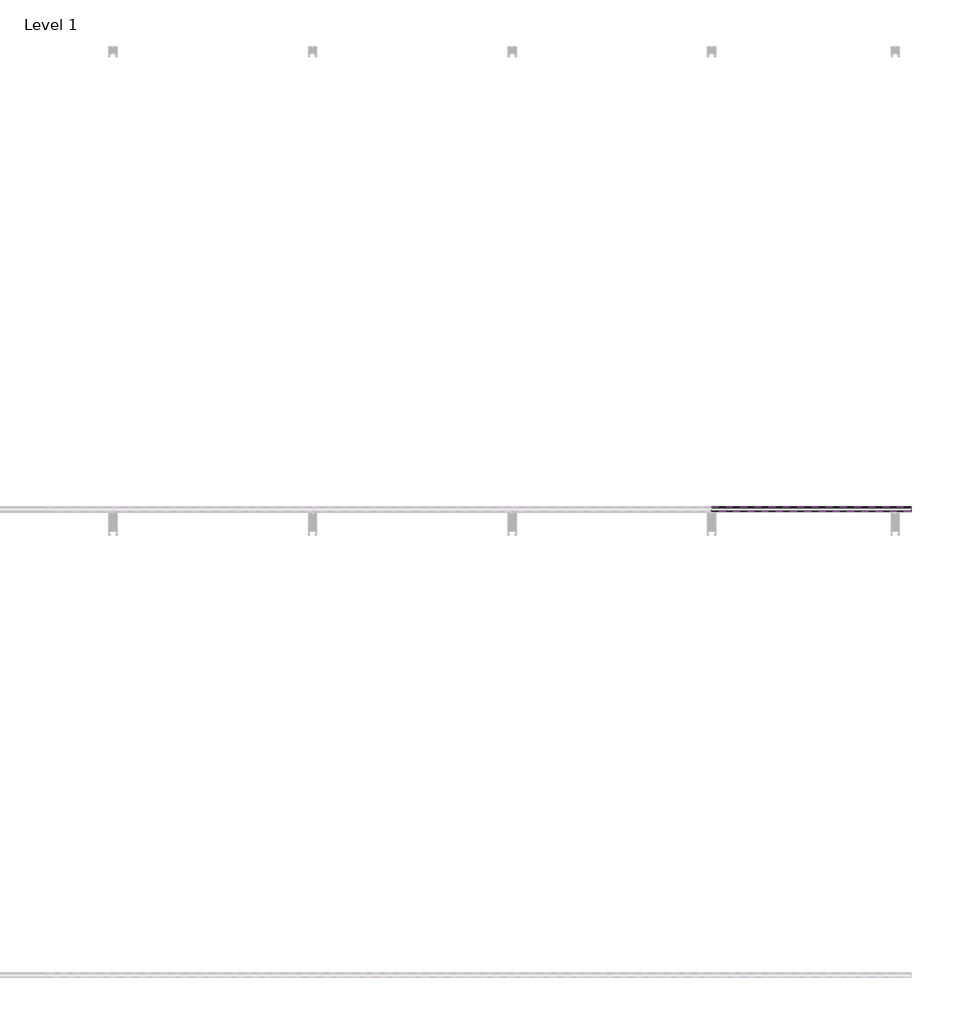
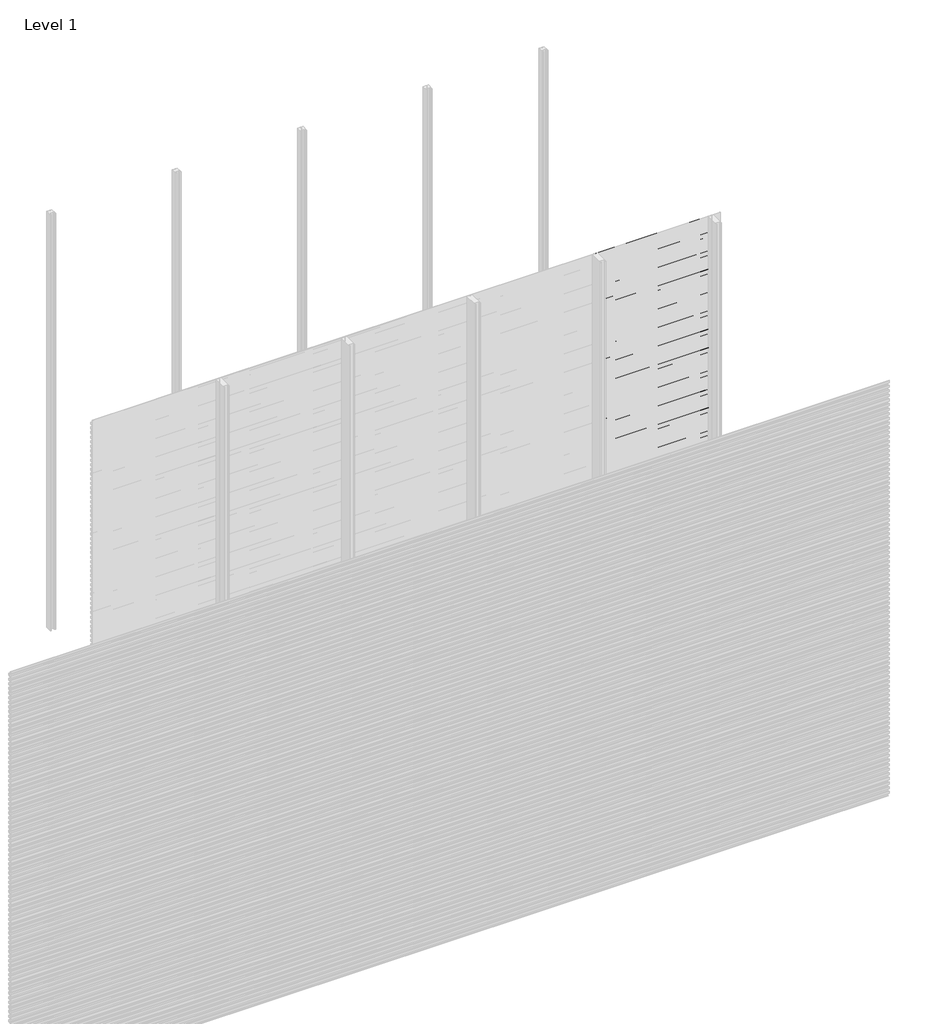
# One storey, part 68 of 96: 76 proxies.
"""IFC4 building model written with IfcOpenShell, lengths in millimetres."""

from ifc_helpers import new_model, si_unit, frame, origin, place, context, project, spatial, polyline, outline, extrude, element, save

model = new_model("IFC4")

# Units and contexts
model_context = context("Model", 3, world=origin())
ifc_project = project(units=[si_unit("LENGTHUNIT", "METRE", prefix="MILLI")], contexts=[model_context])

# Site, building, storey
site = spatial("IfcSite", under=ifc_project)
building = spatial("IfcBuilding", under=site)
storey = spatial("IfcBuildingStorey", under=building, Name="Level 1", Elevation=0.0)

# Proxies
placement = place(None, origin())
element("IfcBuildingElementProxy", 1, Name="Wall Sweeps", at=placement, inside=storey, context=model_context, shape_type="SweptSolid", body=[
    extrude(outline(polyline([(-17977.6, 574.1655033), (-17977.6, 559.8779188), (-17982.4114965, 557.1), (-17982.4114965, 558.3701706), (-17978.85, 560.4264016), (-17978.85, 573.4437382), (-17998.0, 584.5000799), (-17998.0, 599.4), (-17996.75, 599.4), (-17996.75, 585.2217609), (-17977.6, 574.1655033)])), frame((4285.7142857, 0.0, 0.0), z_axis=(1.0, 0.0, 0.0), x_axis=(0.0, 1.0, 0.0)), (0.0, 0.0, 1.0), 857.1428571),
])
element("IfcBuildingElementProxy", 2, Name="Wall Sweeps", at=placement, inside=storey, context=model_context, shape_type="SweptSolid", body=[
    extrude(outline(polyline([(-17977.6, 540.8655033), (-17977.6, 526.5779188), (-17982.4114965, 523.8), (-17982.4114965, 525.0701706), (-17978.85, 527.1264016), (-17978.85, 540.1437382), (-17998.0, 551.2000799), (-17998.0, 566.1), (-17996.75, 566.1), (-17996.75, 551.9217609), (-17977.6, 540.8655033)])), frame((4285.7142857, 0.0, 0.0), z_axis=(1.0, 0.0, 0.0), x_axis=(0.0, 1.0, 0.0)), (0.0, 0.0, 1.0), 857.1428571),
])
element("IfcBuildingElementProxy", 3, Name="Wall Sweeps", at=placement, inside=storey, context=model_context, shape_type="SweptSolid", body=[
    extrude(outline(polyline([(-17977.6, 507.5655033), (-17977.6, 493.2779188), (-17982.4114965, 490.5), (-17982.4114965, 491.7701706), (-17978.85, 493.8264016), (-17978.85, 506.8437382), (-17998.0, 517.9000799), (-17998.0, 532.8), (-17996.75, 532.8), (-17996.75, 518.6217609), (-17977.6, 507.5655033)])), frame((4285.7142857, 0.0, 0.0), z_axis=(1.0, 0.0, 0.0), x_axis=(0.0, 1.0, 0.0)), (0.0, 0.0, 1.0), 857.1428571),
])
element("IfcBuildingElementProxy", 4, Name="Wall Sweeps", at=placement, inside=storey, context=model_context, shape_type="SweptSolid", body=[
    extrude(outline(polyline([(-17977.6, 474.2655033), (-17977.6, 459.9779188), (-17982.4114965, 457.2), (-17982.4114965, 458.4701706), (-17978.85, 460.5264016), (-17978.85, 473.5437382), (-17998.0, 484.6000799), (-17998.0, 499.5), (-17996.75, 499.5), (-17996.75, 485.3217609), (-17977.6, 474.2655033)])), frame((4285.7142857, 0.0, 0.0), z_axis=(1.0, 0.0, 0.0), x_axis=(0.0, 1.0, 0.0)), (0.0, 0.0, 1.0), 857.1428571),
])
element("IfcBuildingElementProxy", 5, Name="Wall Sweeps", at=placement, inside=storey, context=model_context, shape_type="SweptSolid", body=[
    extrude(outline(polyline([(-17977.6, 440.9655033), (-17977.6, 426.6779188), (-17982.4114965, 423.9), (-17982.4114965, 425.1701706), (-17978.85, 427.2264016), (-17978.85, 440.2437382), (-17998.0, 451.3000799), (-17998.0, 466.2), (-17996.75, 466.2), (-17996.75, 452.0217609), (-17977.6, 440.9655033)])), frame((4285.7142857, 0.0, 0.0), z_axis=(1.0, 0.0, 0.0), x_axis=(0.0, 1.0, 0.0)), (0.0, 0.0, 1.0), 857.1428571),
])
element("IfcBuildingElementProxy", 6, Name="Wall Sweeps", at=placement, inside=storey, context=model_context, shape_type="SweptSolid", body=[
    extrude(outline(polyline([(-17977.6, 407.6655033), (-17977.6, 393.3779188), (-17982.4114965, 390.6), (-17982.4114965, 391.8701706), (-17978.85, 393.9264016), (-17978.85, 406.9437382), (-17998.0, 418.0000799), (-17998.0, 432.9), (-17996.75, 432.9), (-17996.75, 418.7217609), (-17977.6, 407.6655033)])), frame((4285.7142857, 0.0, 0.0), z_axis=(1.0, 0.0, 0.0), x_axis=(0.0, 1.0, 0.0)), (0.0, 0.0, 1.0), 857.1428571),
])
element("IfcBuildingElementProxy", 7, Name="Wall Sweeps", at=placement, inside=storey, context=model_context, shape_type="SweptSolid", body=[
    extrude(outline(polyline([(-17977.6, 374.3655033), (-17977.6, 360.0779188), (-17982.4114965, 357.3), (-17982.4114965, 358.5701706), (-17978.85, 360.6264016), (-17978.85, 373.6437382), (-17998.0, 384.7000799), (-17998.0, 399.6), (-17996.75, 399.6), (-17996.75, 385.4217609), (-17977.6, 374.3655033)])), frame((4285.7142857, 0.0, 0.0), z_axis=(1.0, 0.0, 0.0), x_axis=(0.0, 1.0, 0.0)), (0.0, 0.0, 1.0), 857.1428571),
])
element("IfcBuildingElementProxy", 8, Name="Wall Sweeps", at=placement, inside=storey, context=model_context, shape_type="SweptSolid", body=[
    extrude(outline(polyline([(-17977.6, 341.0655033), (-17977.6, 326.7779188), (-17982.4114965, 324.0), (-17982.4114965, 325.2701706), (-17978.85, 327.3264016), (-17978.85, 340.3437382), (-17998.0, 351.4000799), (-17998.0, 366.3), (-17996.75, 366.3), (-17996.75, 352.1217609), (-17977.6, 341.0655033)])), frame((4285.7142857, 0.0, 0.0), z_axis=(1.0, 0.0, 0.0), x_axis=(0.0, 1.0, 0.0)), (0.0, 0.0, 1.0), 857.1428571),
])
element("IfcBuildingElementProxy", 9, Name="Wall Sweeps", at=placement, inside=storey, context=model_context, shape_type="SweptSolid", body=[
    extrude(outline(polyline([(-17977.6, 307.7655033), (-17977.6, 293.4779188), (-17982.4114965, 290.7), (-17982.4114965, 291.9701706), (-17978.85, 294.0264016), (-17978.85, 307.0437382), (-17998.0, 318.1000799), (-17998.0, 333.0), (-17996.75, 333.0), (-17996.75, 318.8217609), (-17977.6, 307.7655033)])), frame((4285.7142857, 0.0, 0.0), z_axis=(1.0, 0.0, 0.0), x_axis=(0.0, 1.0, 0.0)), (0.0, 0.0, 1.0), 857.1428571),
])
element("IfcBuildingElementProxy", 10, Name="Wall Sweeps", at=placement, inside=storey, context=model_context, shape_type="SweptSolid", body=[
    extrude(outline(polyline([(-17977.6, 274.4655033), (-17977.6, 260.1779188), (-17982.4114965, 257.4), (-17982.4114965, 258.6701706), (-17978.85, 260.7264016), (-17978.85, 273.7437382), (-17998.0, 284.8000799), (-17998.0, 299.7), (-17996.75, 299.7), (-17996.75, 285.5217609), (-17977.6, 274.4655033)])), frame((4285.7142857, 0.0, 0.0), z_axis=(1.0, 0.0, 0.0), x_axis=(0.0, 1.0, 0.0)), (0.0, 0.0, 1.0), 857.1428571),
])
element("IfcBuildingElementProxy", 11, Name="Wall Sweeps", at=placement, inside=storey, context=model_context, shape_type="SweptSolid", body=[
    extrude(outline(polyline([(-17977.6, 241.1655033), (-17977.6, 226.8779188), (-17982.4114965, 224.1), (-17982.4114965, 225.3701706), (-17978.85, 227.4264016), (-17978.85, 240.4437382), (-17998.0, 251.5000799), (-17998.0, 266.4), (-17996.75, 266.4), (-17996.75, 252.2217609), (-17977.6, 241.1655033)])), frame((4285.7142857, 0.0, 0.0), z_axis=(1.0, 0.0, 0.0), x_axis=(0.0, 1.0, 0.0)), (0.0, 0.0, 1.0), 857.1428571),
])
element("IfcBuildingElementProxy", 12, Name="Wall Sweeps", at=placement, inside=storey, context=model_context, shape_type="SweptSolid", body=[
    extrude(outline(polyline([(-17977.6, 207.8655033), (-17977.6, 193.5779188), (-17982.4114965, 190.8), (-17982.4114965, 192.0701706), (-17978.85, 194.1264016), (-17978.85, 207.1437382), (-17998.0, 218.2000799), (-17998.0, 233.1), (-17996.75, 233.1), (-17996.75, 218.9217609), (-17977.6, 207.8655033)])), frame((4285.7142857, 0.0, 0.0), z_axis=(1.0, 0.0, 0.0), x_axis=(0.0, 1.0, 0.0)), (0.0, 0.0, 1.0), 857.1428571),
])
element("IfcBuildingElementProxy", 13, Name="Wall Sweeps", at=placement, inside=storey, context=model_context, shape_type="SweptSolid", body=[
    extrude(outline(polyline([(-17977.6, 174.5655033), (-17977.6, 160.2779188), (-17982.4114965, 157.5), (-17982.4114965, 158.7701706), (-17978.85, 160.8264016), (-17978.85, 173.8437382), (-17998.0, 184.9000799), (-17998.0, 199.8), (-17996.75, 199.8), (-17996.75, 185.6217609), (-17977.6, 174.5655033)])), frame((4285.7142857, 0.0, 0.0), z_axis=(1.0, 0.0, 0.0), x_axis=(0.0, 1.0, 0.0)), (0.0, 0.0, 1.0), 857.1428571),
])
element("IfcBuildingElementProxy", 14, Name="Wall Sweeps", at=placement, inside=storey, context=model_context, shape_type="SweptSolid", body=[
    extrude(outline(polyline([(-17977.6, 141.2655033), (-17977.6, 126.9779188), (-17982.4114965, 124.2), (-17982.4114965, 125.4701706), (-17978.85, 127.5264016), (-17978.85, 140.5437382), (-17998.0, 151.6000799), (-17998.0, 166.5), (-17996.75, 166.5), (-17996.75, 152.3217609), (-17977.6, 141.2655033)])), frame((4285.7142857, 0.0, 0.0), z_axis=(1.0, 0.0, 0.0), x_axis=(0.0, 1.0, 0.0)), (0.0, 0.0, 1.0), 857.1428571),
])
element("IfcBuildingElementProxy", 15, Name="Wall Sweeps", at=placement, inside=storey, context=model_context, shape_type="SweptSolid", body=[
    extrude(outline(polyline([(-17977.6, 107.9655033), (-17977.6, 93.6779188), (-17982.4114965, 90.9), (-17982.4114965, 92.1701706), (-17978.85, 94.2264016), (-17978.85, 107.2437382), (-17998.0, 118.3000799), (-17998.0, 133.2), (-17996.75, 133.2), (-17996.75, 119.0217609), (-17977.6, 107.9655033)])), frame((4285.7142857, 0.0, 0.0), z_axis=(1.0, 0.0, 0.0), x_axis=(0.0, 1.0, 0.0)), (0.0, 0.0, 1.0), 857.1428571),
])
element("IfcBuildingElementProxy", 16, Name="Wall Sweeps", at=placement, inside=storey, context=model_context, shape_type="SweptSolid", body=[
    extrude(outline(polyline([(-17977.6, 74.6655033), (-17977.6, 60.3779188), (-17982.4114965, 57.6), (-17982.4114965, 58.8701706), (-17978.85, 60.9264016), (-17978.85, 73.9437382), (-17998.0, 85.0000799), (-17998.0, 99.9), (-17996.75, 99.9), (-17996.75, 85.7217609), (-17977.6, 74.6655033)])), frame((4285.7142857, 0.0, 0.0), z_axis=(1.0, 0.0, 0.0), x_axis=(0.0, 1.0, 0.0)), (0.0, 0.0, 1.0), 857.1428571),
])
element("IfcBuildingElementProxy", 17, Name="Wall Sweeps", at=placement, inside=storey, context=model_context, shape_type="SweptSolid", body=[
    extrude(outline(polyline([(-17977.6, 41.3655033), (-17977.6, 27.0779188), (-17982.4114965, 24.3), (-17982.4114965, 25.5701706), (-17978.85, 27.6264016), (-17978.85, 40.6437382), (-17998.0, 51.7000799), (-17998.0, 66.6), (-17996.75, 66.6), (-17996.75, 52.4217609), (-17977.6, 41.3655033)])), frame((4285.7142857, 0.0, 0.0), z_axis=(1.0, 0.0, 0.0), x_axis=(0.0, 1.0, 0.0)), (0.0, 0.0, 1.0), 857.1428571),
])
element("IfcBuildingElementProxy", 18, Name="Wall Sweeps", at=placement, inside=storey, context=model_context, shape_type="SweptSolid", body=[
    extrude(outline(polyline([(-17977.6, 8.0655033), (-17977.6, -6.2220812), (-17982.4114965, -9.0), (-17982.4114965, -7.7298294), (-17978.85, -5.6735984), (-17978.85, 7.3437382), (-17998.0, 18.4000799), (-17998.0, 33.3), (-17996.75, 33.3), (-17996.75, 19.1217609), (-17977.6, 8.0655033)])), frame((4285.7142857, 0.0, 0.0), z_axis=(1.0, 0.0, 0.0), x_axis=(0.0, 1.0, 0.0)), (0.0, 0.0, 1.0), 857.1428571),
])
element("IfcBuildingElementProxy", 19, Name="Wall Sweeps", at=placement, inside=storey, context=model_context, shape_type="SweptSolid", body=[
    extrude(outline(polyline([(-17977.6, 2971.7655033), (-17977.6, 2957.4779188), (-17982.4114965, 2954.7), (-17982.4114965, 2955.9701706), (-17978.85, 2958.0264016), (-17978.85, 2971.0437382), (-17998.0, 2982.1000799), (-17998.0, 2997.0), (-17996.75, 2997.0), (-17996.75, 2982.8217609), (-17977.6, 2971.7655033)])), frame((5142.8571429, 0.0, 0.0), z_axis=(1.0, 0.0, 0.0), x_axis=(0.0, 1.0, 0.0)), (0.0, 0.0, 1.0), 857.1428571),
])
element("IfcBuildingElementProxy", 20, Name="Wall Sweeps", at=placement, inside=storey, context=model_context, shape_type="SweptSolid", body=[
    extrude(outline(polyline([(-17977.6, 2938.4655033), (-17977.6, 2924.1779188), (-17982.4114965, 2921.4), (-17982.4114965, 2922.6701706), (-17978.85, 2924.7264016), (-17978.85, 2937.7437382), (-17998.0, 2948.8000799), (-17998.0, 2963.7), (-17996.75, 2963.7), (-17996.75, 2949.5217609), (-17977.6, 2938.4655033)])), frame((5142.8571429, 0.0, 0.0), z_axis=(1.0, 0.0, 0.0), x_axis=(0.0, 1.0, 0.0)), (0.0, 0.0, 1.0), 857.1428571),
])
element("IfcBuildingElementProxy", 21, Name="Wall Sweeps", at=placement, inside=storey, context=model_context, shape_type="SweptSolid", body=[
    extrude(outline(polyline([(-17977.6, 2905.1655033), (-17977.6, 2890.8779188), (-17982.4114965, 2888.1), (-17982.4114965, 2889.3701706), (-17978.85, 2891.4264016), (-17978.85, 2904.4437382), (-17998.0, 2915.5000799), (-17998.0, 2930.4), (-17996.75, 2930.4), (-17996.75, 2916.2217609), (-17977.6, 2905.1655033)])), frame((5142.8571429, 0.0, 0.0), z_axis=(1.0, 0.0, 0.0), x_axis=(0.0, 1.0, 0.0)), (0.0, 0.0, 1.0), 857.1428571),
])
element("IfcBuildingElementProxy", 22, Name="Wall Sweeps", at=placement, inside=storey, context=model_context, shape_type="SweptSolid", body=[
    extrude(outline(polyline([(-17977.6, 2871.8655033), (-17977.6, 2857.5779188), (-17982.4114965, 2854.8), (-17982.4114965, 2856.0701706), (-17978.85, 2858.1264016), (-17978.85, 2871.1437382), (-17998.0, 2882.2000799), (-17998.0, 2897.1), (-17996.75, 2897.1), (-17996.75, 2882.9217609), (-17977.6, 2871.8655033)])), frame((5142.8571429, 0.0, 0.0), z_axis=(1.0, 0.0, 0.0), x_axis=(0.0, 1.0, 0.0)), (0.0, 0.0, 1.0), 857.1428571),
])
element("IfcBuildingElementProxy", 23, Name="Wall Sweeps", at=placement, inside=storey, context=model_context, shape_type="SweptSolid", body=[
    extrude(outline(polyline([(-17977.6, 2838.5655033), (-17977.6, 2824.2779188), (-17982.4114965, 2821.5), (-17982.4114965, 2822.7701706), (-17978.85, 2824.8264016), (-17978.85, 2837.8437382), (-17998.0, 2848.9000799), (-17998.0, 2863.8), (-17996.75, 2863.8), (-17996.75, 2849.6217609), (-17977.6, 2838.5655033)])), frame((5142.8571429, 0.0, 0.0), z_axis=(1.0, 0.0, 0.0), x_axis=(0.0, 1.0, 0.0)), (0.0, 0.0, 1.0), 857.1428571),
])
element("IfcBuildingElementProxy", 24, Name="Wall Sweeps", at=placement, inside=storey, context=model_context, shape_type="SweptSolid", body=[
    extrude(outline(polyline([(-17977.6, 2805.2655033), (-17977.6, 2790.9779188), (-17982.4114965, 2788.2), (-17982.4114965, 2789.4701706), (-17978.85, 2791.5264016), (-17978.85, 2804.5437382), (-17998.0, 2815.6000799), (-17998.0, 2830.5), (-17996.75, 2830.5), (-17996.75, 2816.3217609), (-17977.6, 2805.2655033)])), frame((5142.8571429, 0.0, 0.0), z_axis=(1.0, 0.0, 0.0), x_axis=(0.0, 1.0, 0.0)), (0.0, 0.0, 1.0), 857.1428571),
])
element("IfcBuildingElementProxy", 25, Name="Wall Sweeps", at=placement, inside=storey, context=model_context, shape_type="SweptSolid", body=[
    extrude(outline(polyline([(-17977.6, 2771.9655033), (-17977.6, 2757.6779188), (-17982.4114965, 2754.9), (-17982.4114965, 2756.1701706), (-17978.85, 2758.2264016), (-17978.85, 2771.2437382), (-17998.0, 2782.3000799), (-17998.0, 2797.2), (-17996.75, 2797.2), (-17996.75, 2783.0217609), (-17977.6, 2771.9655033)])), frame((5142.8571429, 0.0, 0.0), z_axis=(1.0, 0.0, 0.0), x_axis=(0.0, 1.0, 0.0)), (0.0, 0.0, 1.0), 857.1428571),
])
element("IfcBuildingElementProxy", 26, Name="Wall Sweeps", at=placement, inside=storey, context=model_context, shape_type="SweptSolid", body=[
    extrude(outline(polyline([(-17977.6, 2738.6655033), (-17977.6, 2724.3779188), (-17982.4114965, 2721.6), (-17982.4114965, 2722.8701706), (-17978.85, 2724.9264016), (-17978.85, 2737.9437382), (-17998.0, 2749.0000799), (-17998.0, 2763.9), (-17996.75, 2763.9), (-17996.75, 2749.7217609), (-17977.6, 2738.6655033)])), frame((5142.8571429, 0.0, 0.0), z_axis=(1.0, 0.0, 0.0), x_axis=(0.0, 1.0, 0.0)), (0.0, 0.0, 1.0), 857.1428571),
])
element("IfcBuildingElementProxy", 27, Name="Wall Sweeps", at=placement, inside=storey, context=model_context, shape_type="SweptSolid", body=[
    extrude(outline(polyline([(-17977.6, 2705.3655033), (-17977.6, 2691.0779188), (-17982.4114965, 2688.3), (-17982.4114965, 2689.5701706), (-17978.85, 2691.6264016), (-17978.85, 2704.6437382), (-17998.0, 2715.7000799), (-17998.0, 2730.6), (-17996.75, 2730.6), (-17996.75, 2716.4217609), (-17977.6, 2705.3655033)])), frame((5142.8571429, 0.0, 0.0), z_axis=(1.0, 0.0, 0.0), x_axis=(0.0, 1.0, 0.0)), (0.0, 0.0, 1.0), 857.1428571),
])
element("IfcBuildingElementProxy", 28, Name="Wall Sweeps", at=placement, inside=storey, context=model_context, shape_type="SweptSolid", body=[
    extrude(outline(polyline([(-17977.6, 2672.0655033), (-17977.6, 2657.7779188), (-17982.4114965, 2655.0), (-17982.4114965, 2656.2701706), (-17978.85, 2658.3264016), (-17978.85, 2671.3437382), (-17998.0, 2682.4000799), (-17998.0, 2697.3), (-17996.75, 2697.3), (-17996.75, 2683.1217609), (-17977.6, 2672.0655033)])), frame((5142.8571429, 0.0, 0.0), z_axis=(1.0, 0.0, 0.0), x_axis=(0.0, 1.0, 0.0)), (0.0, 0.0, 1.0), 857.1428571),
])
element("IfcBuildingElementProxy", 29, Name="Wall Sweeps", at=placement, inside=storey, context=model_context, shape_type="SweptSolid", body=[
    extrude(outline(polyline([(-17977.6, 2638.7655033), (-17977.6, 2624.4779188), (-17982.4114965, 2621.7), (-17982.4114965, 2622.9701706), (-17978.85, 2625.0264016), (-17978.85, 2638.0437382), (-17998.0, 2649.1000799), (-17998.0, 2664.0), (-17996.75, 2664.0), (-17996.75, 2649.8217609), (-17977.6, 2638.7655033)])), frame((5142.8571429, 0.0, 0.0), z_axis=(1.0, 0.0, 0.0), x_axis=(0.0, 1.0, 0.0)), (0.0, 0.0, 1.0), 857.1428571),
])
element("IfcBuildingElementProxy", 30, Name="Wall Sweeps", at=placement, inside=storey, context=model_context, shape_type="SweptSolid", body=[
    extrude(outline(polyline([(-17977.6, 2605.4655033), (-17977.6, 2591.1779188), (-17982.4114965, 2588.4), (-17982.4114965, 2589.6701706), (-17978.85, 2591.7264016), (-17978.85, 2604.7437382), (-17998.0, 2615.8000799), (-17998.0, 2630.7), (-17996.75, 2630.7), (-17996.75, 2616.5217609), (-17977.6, 2605.4655033)])), frame((5142.8571429, 0.0, 0.0), z_axis=(1.0, 0.0, 0.0), x_axis=(0.0, 1.0, 0.0)), (0.0, 0.0, 1.0), 857.1428571),
])
element("IfcBuildingElementProxy", 31, Name="Wall Sweeps", at=placement, inside=storey, context=model_context, shape_type="SweptSolid", body=[
    extrude(outline(polyline([(-17977.6, 2572.1655033), (-17977.6, 2557.8779188), (-17982.4114965, 2555.1), (-17982.4114965, 2556.3701706), (-17978.85, 2558.4264016), (-17978.85, 2571.4437382), (-17998.0, 2582.5000799), (-17998.0, 2597.4), (-17996.75, 2597.4), (-17996.75, 2583.2217609), (-17977.6, 2572.1655033)])), frame((5142.8571429, 0.0, 0.0), z_axis=(1.0, 0.0, 0.0), x_axis=(0.0, 1.0, 0.0)), (0.0, 0.0, 1.0), 857.1428571),
])
element("IfcBuildingElementProxy", 32, Name="Wall Sweeps", at=placement, inside=storey, context=model_context, shape_type="SweptSolid", body=[
    extrude(outline(polyline([(-17977.6, 2538.8655033), (-17977.6, 2524.5779188), (-17982.4114965, 2521.8), (-17982.4114965, 2523.0701706), (-17978.85, 2525.1264016), (-17978.85, 2538.1437382), (-17998.0, 2549.2000799), (-17998.0, 2564.1), (-17996.75, 2564.1), (-17996.75, 2549.9217609), (-17977.6, 2538.8655033)])), frame((5142.8571429, 0.0, 0.0), z_axis=(1.0, 0.0, 0.0), x_axis=(0.0, 1.0, 0.0)), (0.0, 0.0, 1.0), 857.1428571),
])
element("IfcBuildingElementProxy", 33, Name="Wall Sweeps", at=placement, inside=storey, context=model_context, shape_type="SweptSolid", body=[
    extrude(outline(polyline([(-17977.6, 2505.5655033), (-17977.6, 2491.2779188), (-17982.4114965, 2488.5), (-17982.4114965, 2489.7701706), (-17978.85, 2491.8264016), (-17978.85, 2504.8437382), (-17998.0, 2515.9000799), (-17998.0, 2530.8), (-17996.75, 2530.8), (-17996.75, 2516.6217609), (-17977.6, 2505.5655033)])), frame((5142.8571429, 0.0, 0.0), z_axis=(1.0, 0.0, 0.0), x_axis=(0.0, 1.0, 0.0)), (0.0, 0.0, 1.0), 857.1428571),
])
element("IfcBuildingElementProxy", 34, Name="Wall Sweeps", at=placement, inside=storey, context=model_context, shape_type="SweptSolid", body=[
    extrude(outline(polyline([(-17977.6, 2472.2655033), (-17977.6, 2457.9779188), (-17982.4114965, 2455.2), (-17982.4114965, 2456.4701706), (-17978.85, 2458.5264016), (-17978.85, 2471.5437382), (-17998.0, 2482.6000799), (-17998.0, 2497.5), (-17996.75, 2497.5), (-17996.75, 2483.3217609), (-17977.6, 2472.2655033)])), frame((5142.8571429, 0.0, 0.0), z_axis=(1.0, 0.0, 0.0), x_axis=(0.0, 1.0, 0.0)), (0.0, 0.0, 1.0), 857.1428571),
])
element("IfcBuildingElementProxy", 35, Name="Wall Sweeps", at=placement, inside=storey, context=model_context, shape_type="SweptSolid", body=[
    extrude(outline(polyline([(-17977.6, 2438.9655033), (-17977.6, 2424.6779188), (-17982.4114965, 2421.9), (-17982.4114965, 2423.1701706), (-17978.85, 2425.2264016), (-17978.85, 2438.2437382), (-17998.0, 2449.3000799), (-17998.0, 2464.2), (-17996.75, 2464.2), (-17996.75, 2450.0217609), (-17977.6, 2438.9655033)])), frame((5142.8571429, 0.0, 0.0), z_axis=(1.0, 0.0, 0.0), x_axis=(0.0, 1.0, 0.0)), (0.0, 0.0, 1.0), 857.1428571),
])
element("IfcBuildingElementProxy", 36, Name="Wall Sweeps", at=placement, inside=storey, context=model_context, shape_type="SweptSolid", body=[
    extrude(outline(polyline([(-17977.6, 2405.6655033), (-17977.6, 2391.3779188), (-17982.4114965, 2388.6), (-17982.4114965, 2389.8701706), (-17978.85, 2391.9264016), (-17978.85, 2404.9437382), (-17998.0, 2416.0000799), (-17998.0, 2430.9), (-17996.75, 2430.9), (-17996.75, 2416.7217609), (-17977.6, 2405.6655033)])), frame((5142.8571429, 0.0, 0.0), z_axis=(1.0, 0.0, 0.0), x_axis=(0.0, 1.0, 0.0)), (0.0, 0.0, 1.0), 857.1428571),
])
element("IfcBuildingElementProxy", 37, Name="Wall Sweeps", at=placement, inside=storey, context=model_context, shape_type="SweptSolid", body=[
    extrude(outline(polyline([(-17977.6, 2372.3655033), (-17977.6, 2358.0779188), (-17982.4114965, 2355.3), (-17982.4114965, 2356.5701706), (-17978.85, 2358.6264016), (-17978.85, 2371.6437382), (-17998.0, 2382.7000799), (-17998.0, 2397.6), (-17996.75, 2397.6), (-17996.75, 2383.4217609), (-17977.6, 2372.3655033)])), frame((5142.8571429, 0.0, 0.0), z_axis=(1.0, 0.0, 0.0), x_axis=(0.0, 1.0, 0.0)), (0.0, 0.0, 1.0), 857.1428571),
])
element("IfcBuildingElementProxy", 38, Name="Wall Sweeps", at=placement, inside=storey, context=model_context, shape_type="SweptSolid", body=[
    extrude(outline(polyline([(-17977.6, 2339.0655033), (-17977.6, 2324.7779188), (-17982.4114965, 2322.0), (-17982.4114965, 2323.2701706), (-17978.85, 2325.3264016), (-17978.85, 2338.3437382), (-17998.0, 2349.4000799), (-17998.0, 2364.3), (-17996.75, 2364.3), (-17996.75, 2350.1217609), (-17977.6, 2339.0655033)])), frame((5142.8571429, 0.0, 0.0), z_axis=(1.0, 0.0, 0.0), x_axis=(0.0, 1.0, 0.0)), (0.0, 0.0, 1.0), 857.1428571),
])
element("IfcBuildingElementProxy", 39, Name="Wall Sweeps", at=placement, inside=storey, context=model_context, shape_type="SweptSolid", body=[
    extrude(outline(polyline([(-17977.6, 2305.7655033), (-17977.6, 2291.4779188), (-17982.4114965, 2288.7), (-17982.4114965, 2289.9701706), (-17978.85, 2292.0264016), (-17978.85, 2305.0437382), (-17998.0, 2316.1000799), (-17998.0, 2331.0), (-17996.75, 2331.0), (-17996.75, 2316.8217609), (-17977.6, 2305.7655033)])), frame((5142.8571429, 0.0, 0.0), z_axis=(1.0, 0.0, 0.0), x_axis=(0.0, 1.0, 0.0)), (0.0, 0.0, 1.0), 857.1428571),
])
element("IfcBuildingElementProxy", 40, Name="Wall Sweeps", at=placement, inside=storey, context=model_context, shape_type="SweptSolid", body=[
    extrude(outline(polyline([(-17977.6, 2272.4655033), (-17977.6, 2258.1779188), (-17982.4114965, 2255.4), (-17982.4114965, 2256.6701706), (-17978.85, 2258.7264016), (-17978.85, 2271.7437382), (-17998.0, 2282.8000799), (-17998.0, 2297.7), (-17996.75, 2297.7), (-17996.75, 2283.5217609), (-17977.6, 2272.4655033)])), frame((5142.8571429, 0.0, 0.0), z_axis=(1.0, 0.0, 0.0), x_axis=(0.0, 1.0, 0.0)), (0.0, 0.0, 1.0), 857.1428571),
])
element("IfcBuildingElementProxy", 41, Name="Wall Sweeps", at=placement, inside=storey, context=model_context, shape_type="SweptSolid", body=[
    extrude(outline(polyline([(-17977.6, 2239.1655033), (-17977.6, 2224.8779188), (-17982.4114965, 2222.1), (-17982.4114965, 2223.3701706), (-17978.85, 2225.4264016), (-17978.85, 2238.4437382), (-17998.0, 2249.5000799), (-17998.0, 2264.4), (-17996.75, 2264.4), (-17996.75, 2250.2217609), (-17977.6, 2239.1655033)])), frame((5142.8571429, 0.0, 0.0), z_axis=(1.0, 0.0, 0.0), x_axis=(0.0, 1.0, 0.0)), (0.0, 0.0, 1.0), 857.1428571),
])
element("IfcBuildingElementProxy", 42, Name="Wall Sweeps", at=placement, inside=storey, context=model_context, shape_type="SweptSolid", body=[
    extrude(outline(polyline([(-17977.6, 2205.8655033), (-17977.6, 2191.5779188), (-17982.4114965, 2188.8), (-17982.4114965, 2190.0701706), (-17978.85, 2192.1264016), (-17978.85, 2205.1437382), (-17998.0, 2216.2000799), (-17998.0, 2231.1), (-17996.75, 2231.1), (-17996.75, 2216.9217609), (-17977.6, 2205.8655033)])), frame((5142.8571429, 0.0, 0.0), z_axis=(1.0, 0.0, 0.0), x_axis=(0.0, 1.0, 0.0)), (0.0, 0.0, 1.0), 857.1428571),
])
element("IfcBuildingElementProxy", 43, Name="Wall Sweeps", at=placement, inside=storey, context=model_context, shape_type="SweptSolid", body=[
    extrude(outline(polyline([(-17977.6, 2172.5655033), (-17977.6, 2158.2779188), (-17982.4114965, 2155.5), (-17982.4114965, 2156.7701706), (-17978.85, 2158.8264016), (-17978.85, 2171.8437382), (-17998.0, 2182.9000799), (-17998.0, 2197.8), (-17996.75, 2197.8), (-17996.75, 2183.6217609), (-17977.6, 2172.5655033)])), frame((5142.8571429, 0.0, 0.0), z_axis=(1.0, 0.0, 0.0), x_axis=(0.0, 1.0, 0.0)), (0.0, 0.0, 1.0), 857.1428571),
])
element("IfcBuildingElementProxy", 44, Name="Wall Sweeps", at=placement, inside=storey, context=model_context, shape_type="SweptSolid", body=[
    extrude(outline(polyline([(-17977.6, 2139.2655033), (-17977.6, 2124.9779188), (-17982.4114965, 2122.2), (-17982.4114965, 2123.4701706), (-17978.85, 2125.5264016), (-17978.85, 2138.5437382), (-17998.0, 2149.6000799), (-17998.0, 2164.5), (-17996.75, 2164.5), (-17996.75, 2150.3217609), (-17977.6, 2139.2655033)])), frame((5142.8571429, 0.0, 0.0), z_axis=(1.0, 0.0, 0.0), x_axis=(0.0, 1.0, 0.0)), (0.0, 0.0, 1.0), 857.1428571),
])
element("IfcBuildingElementProxy", 45, Name="Wall Sweeps", at=placement, inside=storey, context=model_context, shape_type="SweptSolid", body=[
    extrude(outline(polyline([(-17977.6, 2105.9655033), (-17977.6, 2091.6779188), (-17982.4114965, 2088.9), (-17982.4114965, 2090.1701706), (-17978.85, 2092.2264016), (-17978.85, 2105.2437382), (-17998.0, 2116.3000799), (-17998.0, 2131.2), (-17996.75, 2131.2), (-17996.75, 2117.0217609), (-17977.6, 2105.9655033)])), frame((5142.8571429, 0.0, 0.0), z_axis=(1.0, 0.0, 0.0), x_axis=(0.0, 1.0, 0.0)), (0.0, 0.0, 1.0), 857.1428571),
])
element("IfcBuildingElementProxy", 46, Name="Wall Sweeps", at=placement, inside=storey, context=model_context, shape_type="SweptSolid", body=[
    extrude(outline(polyline([(-17977.6, 2072.6655033), (-17977.6, 2058.3779188), (-17982.4114965, 2055.6), (-17982.4114965, 2056.8701706), (-17978.85, 2058.9264016), (-17978.85, 2071.9437382), (-17998.0, 2083.0000799), (-17998.0, 2097.9), (-17996.75, 2097.9), (-17996.75, 2083.7217609), (-17977.6, 2072.6655033)])), frame((5142.8571429, 0.0, 0.0), z_axis=(1.0, 0.0, 0.0), x_axis=(0.0, 1.0, 0.0)), (0.0, 0.0, 1.0), 857.1428571),
])
element("IfcBuildingElementProxy", 47, Name="Wall Sweeps", at=placement, inside=storey, context=model_context, shape_type="SweptSolid", body=[
    extrude(outline(polyline([(-17977.6, 2039.3655033), (-17977.6, 2025.0779188), (-17982.4114965, 2022.3), (-17982.4114965, 2023.5701706), (-17978.85, 2025.6264016), (-17978.85, 2038.6437382), (-17998.0, 2049.7000799), (-17998.0, 2064.6), (-17996.75, 2064.6), (-17996.75, 2050.4217609), (-17977.6, 2039.3655033)])), frame((5142.8571429, 0.0, 0.0), z_axis=(1.0, 0.0, 0.0), x_axis=(0.0, 1.0, 0.0)), (0.0, 0.0, 1.0), 857.1428571),
])
element("IfcBuildingElementProxy", 48, Name="Wall Sweeps", at=placement, inside=storey, context=model_context, shape_type="SweptSolid", body=[
    extrude(outline(polyline([(-17977.6, 2006.0655033), (-17977.6, 1991.7779188), (-17982.4114965, 1989.0), (-17982.4114965, 1990.2701706), (-17978.85, 1992.3264016), (-17978.85, 2005.3437382), (-17998.0, 2016.4000799), (-17998.0, 2031.3), (-17996.75, 2031.3), (-17996.75, 2017.1217609), (-17977.6, 2006.0655033)])), frame((5142.8571429, 0.0, 0.0), z_axis=(1.0, 0.0, 0.0), x_axis=(0.0, 1.0, 0.0)), (0.0, 0.0, 1.0), 857.1428571),
])
element("IfcBuildingElementProxy", 49, Name="Wall Sweeps", at=placement, inside=storey, context=model_context, shape_type="SweptSolid", body=[
    extrude(outline(polyline([(-17977.6, 1972.7655033), (-17977.6, 1958.4779188), (-17982.4114965, 1955.7), (-17982.4114965, 1956.9701706), (-17978.85, 1959.0264016), (-17978.85, 1972.0437382), (-17998.0, 1983.1000799), (-17998.0, 1998.0), (-17996.75, 1998.0), (-17996.75, 1983.8217609), (-17977.6, 1972.7655033)])), frame((5142.8571429, 0.0, 0.0), z_axis=(1.0, 0.0, 0.0), x_axis=(0.0, 1.0, 0.0)), (0.0, 0.0, 1.0), 857.1428571),
])
element("IfcBuildingElementProxy", 50, Name="Wall Sweeps", at=placement, inside=storey, context=model_context, shape_type="SweptSolid", body=[
    extrude(outline(polyline([(-17977.6, 1939.4655033), (-17977.6, 1925.1779188), (-17982.4114965, 1922.4), (-17982.4114965, 1923.6701706), (-17978.85, 1925.7264016), (-17978.85, 1938.7437382), (-17998.0, 1949.8000799), (-17998.0, 1964.7), (-17996.75, 1964.7), (-17996.75, 1950.5217609), (-17977.6, 1939.4655033)])), frame((5142.8571429, 0.0, 0.0), z_axis=(1.0, 0.0, 0.0), x_axis=(0.0, 1.0, 0.0)), (0.0, 0.0, 1.0), 857.1428571),
])
element("IfcBuildingElementProxy", 51, Name="Wall Sweeps", at=placement, inside=storey, context=model_context, shape_type="SweptSolid", body=[
    extrude(outline(polyline([(-17977.6, 1906.1655033), (-17977.6, 1891.8779188), (-17982.4114965, 1889.1), (-17982.4114965, 1890.3701706), (-17978.85, 1892.4264016), (-17978.85, 1905.4437382), (-17998.0, 1916.5000799), (-17998.0, 1931.4), (-17996.75, 1931.4), (-17996.75, 1917.2217609), (-17977.6, 1906.1655033)])), frame((5142.8571429, 0.0, 0.0), z_axis=(1.0, 0.0, 0.0), x_axis=(0.0, 1.0, 0.0)), (0.0, 0.0, 1.0), 857.1428571),
])
element("IfcBuildingElementProxy", 52, Name="Wall Sweeps", at=placement, inside=storey, context=model_context, shape_type="SweptSolid", body=[
    extrude(outline(polyline([(-17977.6, 1872.8655033), (-17977.6, 1858.5779188), (-17982.4114965, 1855.8), (-17982.4114965, 1857.0701706), (-17978.85, 1859.1264016), (-17978.85, 1872.1437382), (-17998.0, 1883.2000799), (-17998.0, 1898.1), (-17996.75, 1898.1), (-17996.75, 1883.9217609), (-17977.6, 1872.8655033)])), frame((5142.8571429, 0.0, 0.0), z_axis=(1.0, 0.0, 0.0), x_axis=(0.0, 1.0, 0.0)), (0.0, 0.0, 1.0), 857.1428571),
])
element("IfcBuildingElementProxy", 53, Name="Wall Sweeps", at=placement, inside=storey, context=model_context, shape_type="SweptSolid", body=[
    extrude(outline(polyline([(-17977.6, 1839.5655033), (-17977.6, 1825.2779188), (-17982.4114965, 1822.5), (-17982.4114965, 1823.7701706), (-17978.85, 1825.8264016), (-17978.85, 1838.8437382), (-17998.0, 1849.9000799), (-17998.0, 1864.8), (-17996.75, 1864.8), (-17996.75, 1850.6217609), (-17977.6, 1839.5655033)])), frame((5142.8571429, 0.0, 0.0), z_axis=(1.0, 0.0, 0.0), x_axis=(0.0, 1.0, 0.0)), (0.0, 0.0, 1.0), 857.1428571),
])
element("IfcBuildingElementProxy", 54, Name="Wall Sweeps", at=placement, inside=storey, context=model_context, shape_type="SweptSolid", body=[
    extrude(outline(polyline([(-17977.6, 1806.2655033), (-17977.6, 1791.9779188), (-17982.4114965, 1789.2), (-17982.4114965, 1790.4701706), (-17978.85, 1792.5264016), (-17978.85, 1805.5437382), (-17998.0, 1816.6000799), (-17998.0, 1831.5), (-17996.75, 1831.5), (-17996.75, 1817.3217609), (-17977.6, 1806.2655033)])), frame((5142.8571429, 0.0, 0.0), z_axis=(1.0, 0.0, 0.0), x_axis=(0.0, 1.0, 0.0)), (0.0, 0.0, 1.0), 857.1428571),
])
element("IfcBuildingElementProxy", 55, Name="Wall Sweeps", at=placement, inside=storey, context=model_context, shape_type="SweptSolid", body=[
    extrude(outline(polyline([(-17977.6, 1772.9655033), (-17977.6, 1758.6779188), (-17982.4114965, 1755.9), (-17982.4114965, 1757.1701706), (-17978.85, 1759.2264016), (-17978.85, 1772.2437382), (-17998.0, 1783.3000799), (-17998.0, 1798.2), (-17996.75, 1798.2), (-17996.75, 1784.0217609), (-17977.6, 1772.9655033)])), frame((5142.8571429, 0.0, 0.0), z_axis=(1.0, 0.0, 0.0), x_axis=(0.0, 1.0, 0.0)), (0.0, 0.0, 1.0), 857.1428571),
])
element("IfcBuildingElementProxy", 56, Name="Wall Sweeps", at=placement, inside=storey, context=model_context, shape_type="SweptSolid", body=[
    extrude(outline(polyline([(-17977.6, 1739.6655033), (-17977.6, 1725.3779188), (-17982.4114965, 1722.6), (-17982.4114965, 1723.8701706), (-17978.85, 1725.9264016), (-17978.85, 1738.9437382), (-17998.0, 1750.0000799), (-17998.0, 1764.9), (-17996.75, 1764.9), (-17996.75, 1750.7217609), (-17977.6, 1739.6655033)])), frame((5142.8571429, 0.0, 0.0), z_axis=(1.0, 0.0, 0.0), x_axis=(0.0, 1.0, 0.0)), (0.0, 0.0, 1.0), 857.1428571),
])
element("IfcBuildingElementProxy", 57, Name="Wall Sweeps", at=placement, inside=storey, context=model_context, shape_type="SweptSolid", body=[
    extrude(outline(polyline([(-17977.6, 1706.3655033), (-17977.6, 1692.0779188), (-17982.4114965, 1689.3), (-17982.4114965, 1690.5701706), (-17978.85, 1692.6264016), (-17978.85, 1705.6437382), (-17998.0, 1716.7000799), (-17998.0, 1731.6), (-17996.75, 1731.6), (-17996.75, 1717.4217609), (-17977.6, 1706.3655033)])), frame((5142.8571429, 0.0, 0.0), z_axis=(1.0, 0.0, 0.0), x_axis=(0.0, 1.0, 0.0)), (0.0, 0.0, 1.0), 857.1428571),
])
element("IfcBuildingElementProxy", 58, Name="Wall Sweeps", at=placement, inside=storey, context=model_context, shape_type="SweptSolid", body=[
    extrude(outline(polyline([(-17977.6, 1673.0655033), (-17977.6, 1658.7779188), (-17982.4114965, 1656.0), (-17982.4114965, 1657.2701706), (-17978.85, 1659.3264016), (-17978.85, 1672.3437382), (-17998.0, 1683.4000799), (-17998.0, 1698.3), (-17996.75, 1698.3), (-17996.75, 1684.1217609), (-17977.6, 1673.0655033)])), frame((5142.8571429, 0.0, 0.0), z_axis=(1.0, 0.0, 0.0), x_axis=(0.0, 1.0, 0.0)), (0.0, 0.0, 1.0), 857.1428571),
])
element("IfcBuildingElementProxy", 59, Name="Wall Sweeps", at=placement, inside=storey, context=model_context, shape_type="SweptSolid", body=[
    extrude(outline(polyline([(-17977.6, 1639.7655033), (-17977.6, 1625.4779188), (-17982.4114965, 1622.7), (-17982.4114965, 1623.9701706), (-17978.85, 1626.0264016), (-17978.85, 1639.0437382), (-17998.0, 1650.1000799), (-17998.0, 1665.0), (-17996.75, 1665.0), (-17996.75, 1650.8217609), (-17977.6, 1639.7655033)])), frame((5142.8571429, 0.0, 0.0), z_axis=(1.0, 0.0, 0.0), x_axis=(0.0, 1.0, 0.0)), (0.0, 0.0, 1.0), 857.1428571),
])
element("IfcBuildingElementProxy", 60, Name="Wall Sweeps", at=placement, inside=storey, context=model_context, shape_type="SweptSolid", body=[
    extrude(outline(polyline([(-17977.6, 1606.4655033), (-17977.6, 1592.1779188), (-17982.4114965, 1589.4), (-17982.4114965, 1590.6701706), (-17978.85, 1592.7264016), (-17978.85, 1605.7437382), (-17998.0, 1616.8000799), (-17998.0, 1631.7), (-17996.75, 1631.7), (-17996.75, 1617.5217609), (-17977.6, 1606.4655033)])), frame((5142.8571429, 0.0, 0.0), z_axis=(1.0, 0.0, 0.0), x_axis=(0.0, 1.0, 0.0)), (0.0, 0.0, 1.0), 857.1428571),
])
element("IfcBuildingElementProxy", 61, Name="Wall Sweeps", at=placement, inside=storey, context=model_context, shape_type="SweptSolid", body=[
    extrude(outline(polyline([(-17977.6, 1573.1655033), (-17977.6, 1558.8779188), (-17982.4114965, 1556.1), (-17982.4114965, 1557.3701706), (-17978.85, 1559.4264016), (-17978.85, 1572.4437382), (-17998.0, 1583.5000799), (-17998.0, 1598.4), (-17996.75, 1598.4), (-17996.75, 1584.2217609), (-17977.6, 1573.1655033)])), frame((5142.8571429, 0.0, 0.0), z_axis=(1.0, 0.0, 0.0), x_axis=(0.0, 1.0, 0.0)), (0.0, 0.0, 1.0), 857.1428571),
])
element("IfcBuildingElementProxy", 62, Name="Wall Sweeps", at=placement, inside=storey, context=model_context, shape_type="SweptSolid", body=[
    extrude(outline(polyline([(-17977.6, 1539.8655033), (-17977.6, 1525.5779188), (-17982.4114965, 1522.8), (-17982.4114965, 1524.0701706), (-17978.85, 1526.1264016), (-17978.85, 1539.1437382), (-17998.0, 1550.2000799), (-17998.0, 1565.1), (-17996.75, 1565.1), (-17996.75, 1550.9217609), (-17977.6, 1539.8655033)])), frame((5142.8571429, 0.0, 0.0), z_axis=(1.0, 0.0, 0.0), x_axis=(0.0, 1.0, 0.0)), (0.0, 0.0, 1.0), 857.1428571),
])
element("IfcBuildingElementProxy", 63, Name="Wall Sweeps", at=placement, inside=storey, context=model_context, shape_type="SweptSolid", body=[
    extrude(outline(polyline([(-17977.6, 1506.5655033), (-17977.6, 1492.2779188), (-17982.4114965, 1489.5), (-17982.4114965, 1490.7701706), (-17978.85, 1492.8264016), (-17978.85, 1505.8437382), (-17998.0, 1516.9000799), (-17998.0, 1531.8), (-17996.75, 1531.8), (-17996.75, 1517.6217609), (-17977.6, 1506.5655033)])), frame((5142.8571429, 0.0, 0.0), z_axis=(1.0, 0.0, 0.0), x_axis=(0.0, 1.0, 0.0)), (0.0, 0.0, 1.0), 857.1428571),
])
element("IfcBuildingElementProxy", 64, Name="Wall Sweeps", at=placement, inside=storey, context=model_context, shape_type="SweptSolid", body=[
    extrude(outline(polyline([(-17977.6, 1473.2655033), (-17977.6, 1458.9779188), (-17982.4114965, 1456.2), (-17982.4114965, 1457.4701706), (-17978.85, 1459.5264016), (-17978.85, 1472.5437382), (-17998.0, 1483.6000799), (-17998.0, 1498.5), (-17996.75, 1498.5), (-17996.75, 1484.3217609), (-17977.6, 1473.2655033)])), frame((5142.8571429, 0.0, 0.0), z_axis=(1.0, 0.0, 0.0), x_axis=(0.0, 1.0, 0.0)), (0.0, 0.0, 1.0), 857.1428571),
])
element("IfcBuildingElementProxy", 65, Name="Wall Sweeps", at=placement, inside=storey, context=model_context, shape_type="SweptSolid", body=[
    extrude(outline(polyline([(-17977.6, 1439.9655033), (-17977.6, 1425.6779188), (-17982.4114965, 1422.9), (-17982.4114965, 1424.1701706), (-17978.85, 1426.2264016), (-17978.85, 1439.2437382), (-17998.0, 1450.3000799), (-17998.0, 1465.2), (-17996.75, 1465.2), (-17996.75, 1451.0217609), (-17977.6, 1439.9655033)])), frame((5142.8571429, 0.0, 0.0), z_axis=(1.0, 0.0, 0.0), x_axis=(0.0, 1.0, 0.0)), (0.0, 0.0, 1.0), 857.1428571),
])
element("IfcBuildingElementProxy", 66, Name="Wall Sweeps", at=placement, inside=storey, context=model_context, shape_type="SweptSolid", body=[
    extrude(outline(polyline([(-17977.6, 1406.6655033), (-17977.6, 1392.3779188), (-17982.4114965, 1389.6), (-17982.4114965, 1390.8701706), (-17978.85, 1392.9264016), (-17978.85, 1405.9437382), (-17998.0, 1417.0000799), (-17998.0, 1431.9), (-17996.75, 1431.9), (-17996.75, 1417.7217609), (-17977.6, 1406.6655033)])), frame((5142.8571429, 0.0, 0.0), z_axis=(1.0, 0.0, 0.0), x_axis=(0.0, 1.0, 0.0)), (0.0, 0.0, 1.0), 857.1428571),
])
element("IfcBuildingElementProxy", 67, Name="Wall Sweeps", at=placement, inside=storey, context=model_context, shape_type="SweptSolid", body=[
    extrude(outline(polyline([(-17977.6, 1373.3655033), (-17977.6, 1359.0779188), (-17982.4114965, 1356.3), (-17982.4114965, 1357.5701706), (-17978.85, 1359.6264016), (-17978.85, 1372.6437382), (-17998.0, 1383.7000799), (-17998.0, 1398.6), (-17996.75, 1398.6), (-17996.75, 1384.4217609), (-17977.6, 1373.3655033)])), frame((5142.8571429, 0.0, 0.0), z_axis=(1.0, 0.0, 0.0), x_axis=(0.0, 1.0, 0.0)), (0.0, 0.0, 1.0), 857.1428571),
])
element("IfcBuildingElementProxy", 68, Name="Wall Sweeps", at=placement, inside=storey, context=model_context, shape_type="SweptSolid", body=[
    extrude(outline(polyline([(-17977.6, 1340.0655033), (-17977.6, 1325.7779188), (-17982.4114965, 1323.0), (-17982.4114965, 1324.2701706), (-17978.85, 1326.3264016), (-17978.85, 1339.3437382), (-17998.0, 1350.4000799), (-17998.0, 1365.3), (-17996.75, 1365.3), (-17996.75, 1351.1217609), (-17977.6, 1340.0655033)])), frame((5142.8571429, 0.0, 0.0), z_axis=(1.0, 0.0, 0.0), x_axis=(0.0, 1.0, 0.0)), (0.0, 0.0, 1.0), 857.1428571),
])
element("IfcBuildingElementProxy", 69, Name="Wall Sweeps", at=placement, inside=storey, context=model_context, shape_type="SweptSolid", body=[
    extrude(outline(polyline([(-17977.6, 1306.7655033), (-17977.6, 1292.4779188), (-17982.4114965, 1289.7), (-17982.4114965, 1290.9701706), (-17978.85, 1293.0264016), (-17978.85, 1306.0437382), (-17998.0, 1317.1000799), (-17998.0, 1332.0), (-17996.75, 1332.0), (-17996.75, 1317.8217609), (-17977.6, 1306.7655033)])), frame((5142.8571429, 0.0, 0.0), z_axis=(1.0, 0.0, 0.0), x_axis=(0.0, 1.0, 0.0)), (0.0, 0.0, 1.0), 857.1428571),
])
element("IfcBuildingElementProxy", 70, Name="Wall Sweeps", at=placement, inside=storey, context=model_context, shape_type="SweptSolid", body=[
    extrude(outline(polyline([(-17977.6, 1273.4655033), (-17977.6, 1259.1779188), (-17982.4114965, 1256.4), (-17982.4114965, 1257.6701706), (-17978.85, 1259.7264016), (-17978.85, 1272.7437382), (-17998.0, 1283.8000799), (-17998.0, 1298.7), (-17996.75, 1298.7), (-17996.75, 1284.5217609), (-17977.6, 1273.4655033)])), frame((5142.8571429, 0.0, 0.0), z_axis=(1.0, 0.0, 0.0), x_axis=(0.0, 1.0, 0.0)), (0.0, 0.0, 1.0), 857.1428571),
])
element("IfcBuildingElementProxy", 71, Name="Wall Sweeps", at=placement, inside=storey, context=model_context, shape_type="SweptSolid", body=[
    extrude(outline(polyline([(-17977.6, 1240.1655033), (-17977.6, 1225.8779188), (-17982.4114965, 1223.1), (-17982.4114965, 1224.3701706), (-17978.85, 1226.4264016), (-17978.85, 1239.4437382), (-17998.0, 1250.5000799), (-17998.0, 1265.4), (-17996.75, 1265.4), (-17996.75, 1251.2217609), (-17977.6, 1240.1655033)])), frame((5142.8571429, 0.0, 0.0), z_axis=(1.0, 0.0, 0.0), x_axis=(0.0, 1.0, 0.0)), (0.0, 0.0, 1.0), 857.1428571),
])
element("IfcBuildingElementProxy", 72, Name="Wall Sweeps", at=placement, inside=storey, context=model_context, shape_type="SweptSolid", body=[
    extrude(outline(polyline([(-17977.6, 1206.8655033), (-17977.6, 1192.5779188), (-17982.4114965, 1189.8), (-17982.4114965, 1191.0701706), (-17978.85, 1193.1264016), (-17978.85, 1206.1437382), (-17998.0, 1217.2000799), (-17998.0, 1232.1), (-17996.75, 1232.1), (-17996.75, 1217.9217609), (-17977.6, 1206.8655033)])), frame((5142.8571429, 0.0, 0.0), z_axis=(1.0, 0.0, 0.0), x_axis=(0.0, 1.0, 0.0)), (0.0, 0.0, 1.0), 857.1428571),
])
element("IfcBuildingElementProxy", 73, Name="Wall Sweeps", at=placement, inside=storey, context=model_context, shape_type="SweptSolid", body=[
    extrude(outline(polyline([(-17977.6, 1173.5655033), (-17977.6, 1159.2779188), (-17982.4114965, 1156.5), (-17982.4114965, 1157.7701706), (-17978.85, 1159.8264016), (-17978.85, 1172.8437382), (-17998.0, 1183.9000799), (-17998.0, 1198.8), (-17996.75, 1198.8), (-17996.75, 1184.6217609), (-17977.6, 1173.5655033)])), frame((5142.8571429, 0.0, 0.0), z_axis=(1.0, 0.0, 0.0), x_axis=(0.0, 1.0, 0.0)), (0.0, 0.0, 1.0), 857.1428571),
])
element("IfcBuildingElementProxy", 74, Name="Wall Sweeps", at=placement, inside=storey, context=model_context, shape_type="SweptSolid", body=[
    extrude(outline(polyline([(-17977.6, 1140.2655033), (-17977.6, 1125.9779188), (-17982.4114965, 1123.2), (-17982.4114965, 1124.4701706), (-17978.85, 1126.5264016), (-17978.85, 1139.5437382), (-17998.0, 1150.6000799), (-17998.0, 1165.5), (-17996.75, 1165.5), (-17996.75, 1151.3217609), (-17977.6, 1140.2655033)])), frame((5142.8571429, 0.0, 0.0), z_axis=(1.0, 0.0, 0.0), x_axis=(0.0, 1.0, 0.0)), (0.0, 0.0, 1.0), 857.1428571),
])
element("IfcBuildingElementProxy", 75, Name="Wall Sweeps", at=placement, inside=storey, context=model_context, shape_type="SweptSolid", body=[
    extrude(outline(polyline([(-17977.6, 1106.9655033), (-17977.6, 1092.6779188), (-17982.4114965, 1089.9), (-17982.4114965, 1091.1701706), (-17978.85, 1093.2264016), (-17978.85, 1106.2437382), (-17998.0, 1117.3000799), (-17998.0, 1132.2), (-17996.75, 1132.2), (-17996.75, 1118.0217609), (-17977.6, 1106.9655033)])), frame((5142.8571429, 0.0, 0.0), z_axis=(1.0, 0.0, 0.0), x_axis=(0.0, 1.0, 0.0)), (0.0, 0.0, 1.0), 857.1428571),
])
element("IfcBuildingElementProxy", 76, Name="Wall Sweeps", at=placement, inside=storey, context=model_context, shape_type="SweptSolid", body=[
    extrude(outline(polyline([(-17977.6, 1073.6655033), (-17977.6, 1059.3779188), (-17982.4114965, 1056.6), (-17982.4114965, 1057.8701706), (-17978.85, 1059.9264016), (-17978.85, 1072.9437382), (-17998.0, 1084.0000799), (-17998.0, 1098.9), (-17996.75, 1098.9), (-17996.75, 1084.7217609), (-17977.6, 1073.6655033)])), frame((5142.8571429, 0.0, 0.0), z_axis=(1.0, 0.0, 0.0), x_axis=(0.0, 1.0, 0.0)), (0.0, 0.0, 1.0), 857.1428571),
])

save(model, "model.ifc")
